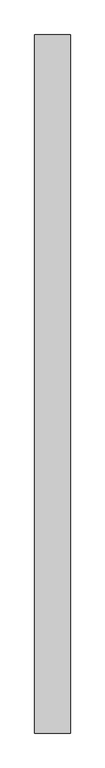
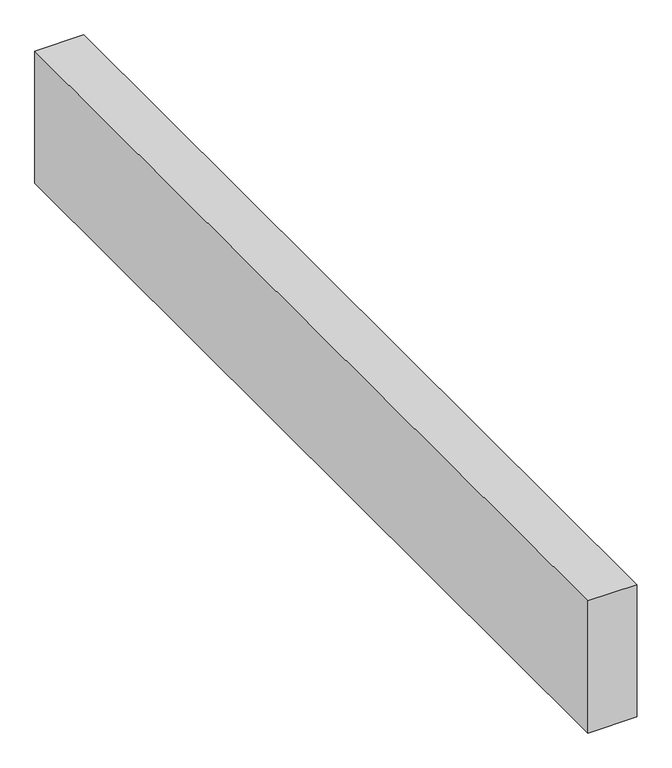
"""IFC4 building model written with IfcOpenShell, lengths in millimetres: proxy geometry."""

from ifc_helpers import new_model, si_unit, frame, origin, place, context, project, spatial, polyline, outline, extrude, source, transform, mapped, element, save


def structural_framing_8dfd1342(model_context):
    return source(origin(), model_context, "Body", "SweptSolid", [
        extrude(outline(polyline([(70.0, -1372.5), (-70.0, -1372.5), (-70.0, 1372.5), (70.0, 1372.5), (70.0, -1372.5)])), frame((0.0, 0.0, -400.0), z_axis=(0.0, 0.0, 1.0), x_axis=(1.0, 0.0, 0.0)), (0.0, 0.0, 1.0), 400.0),
    ])


if __name__ == "__main__":
    model = new_model("IFC4")
    model_context = context("Model", 3, world=origin())
    ifc_project = project(units=[si_unit("LENGTHUNIT", "METRE", prefix="MILLI")], contexts=[model_context])
    site = spatial("IfcSite", under=ifc_project)
    building = spatial("IfcBuilding", under=site)
    placement = place(None, origin())
    structural_framing_shape = structural_framing_8dfd1342(model_context)
    element("IfcBuildingElementProxy", 1, Name="Structural Framing", at=placement, inside=building, context=model_context, shape_type="MappedRepresentation", body=[
        mapped(structural_framing_shape, transform((0.0, 0.0, 0.0), x_axis=(1.0, 0.0, 0.0), y_axis=(0.0, 1.0, 0.0), z_axis=(0.0, 0.0, 1.0))),
    ])
    save(model, "model.ifc")
